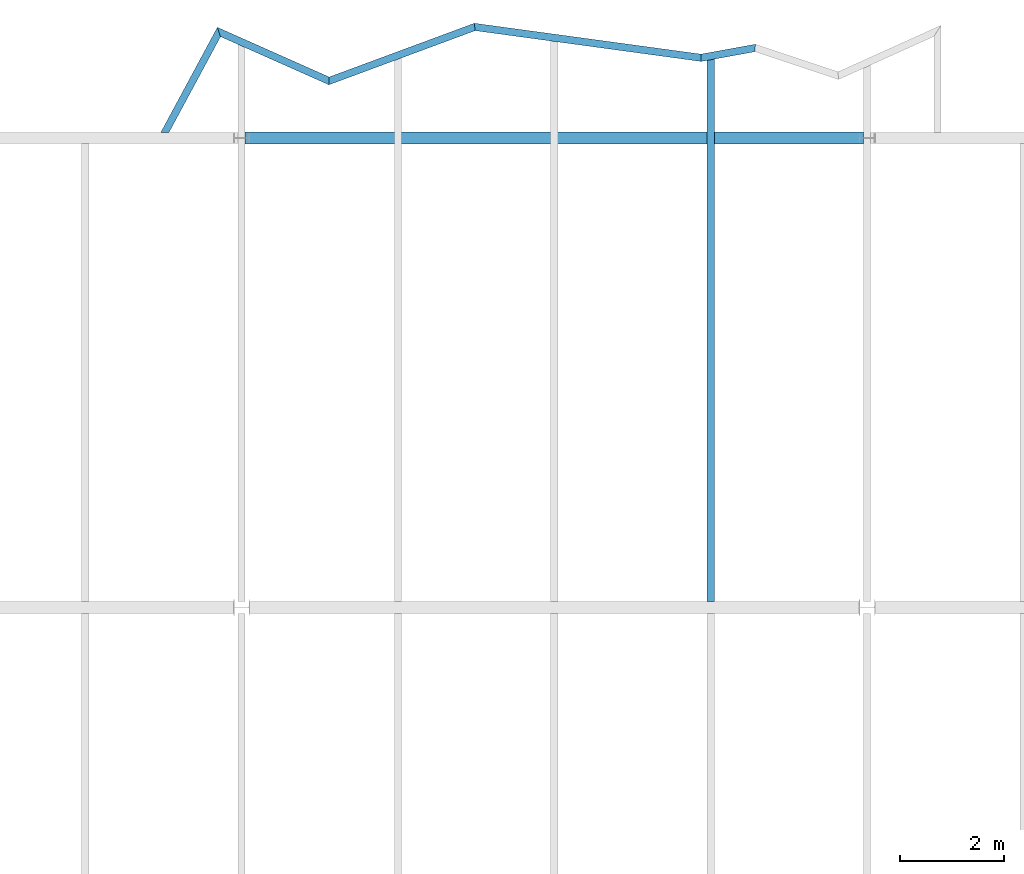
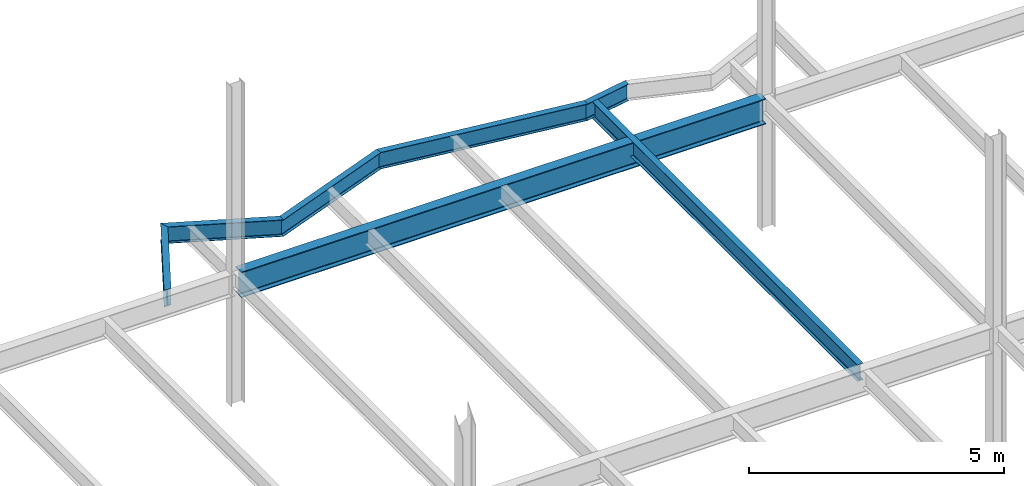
# One storey, part 10 of 23: 7 beams.
"""IFC2X3 building model written with IfcOpenShell, lengths in millimetres."""

from ifc_helpers import new_model, si_unit, origin, place, context, project, spatial, faceted_brep, material, element, save


model = new_model("IFC2X3")

# Units and contexts
context_of_model = context(None, 3, precision=1e-05, world=origin())
ifc_project = project(units=[si_unit("LENGTHUNIT", "METRE", prefix="MILLI")], contexts=[context_of_model])

# Building, storey
building = spatial("IfcBuilding", under=ifc_project, Name="Building", CompositionType="ELEMENT")
storey = spatial("IfcBuildingStorey", under=building, Name="FL5-FRM", CompositionType="ELEMENT")

# Beams
ifc_material_1 = material(Name="A992")
beam_1_placement = place(None, origin())
element("IfcBeam", 1, at=beam_1_placement, inside=storey, material=ifc_material_1, Name="Column405", context=context_of_model, shape_type="Brep", body=[
    faceted_brep([(-23930.0, 35885.5, 17261.0), (-23930.0, 36114.5, 17261.0), (-12070.0, 36114.5, 17261.0), (-12070.0, 35885.5, 17261.0), (-23930.0, 36114.5, 17280.6), (-12070.0, 36114.5, 17280.6), (-23930.0, 36018.6, 17280.6), (-12070.0, 36018.6, 17280.6), (-23930.0, 36015.4, 17281.0), (-12070.0, 36015.4, 17281.0), (-23930.0, 36012.3, 17282.3), (-12070.0, 36012.3, 17282.3), (-23930.0, 36009.7, 17284.3), (-12070.0, 36009.7, 17284.3), (-23930.0, 36007.7, 17287.0), (-12070.0, 36007.7, 17287.0), (-23930.0, 36006.4, 17290.0), (-12070.0, 36006.4, 17290.0), (-23930.0, 36005.9, 17293.3), (-12070.0, 36005.9, 17293.3), (-23930.0, 36005.9, 17840.7), (-12070.0, 36005.9, 17840.7), (-23930.0, 36006.4, 17844.0), (-12070.0, 36006.4, 17844.0), (-23930.0, 36007.7, 17847.0), (-12070.0, 36007.7, 17847.0), (-23930.0, 36009.7, 17849.7), (-12070.0, 36009.7, 17849.7), (-23930.0, 36012.3, 17851.7), (-12070.0, 36012.3, 17851.7), (-23930.0, 36015.4, 17853.0), (-12070.0, 36015.4, 17853.0), (-23930.0, 36018.6, 17853.4), (-12070.0, 36018.6, 17853.4), (-23930.0, 36114.5, 17853.4), (-12070.0, 36114.5, 17853.4), (-23930.0, 36114.5, 17873.0), (-12070.0, 36114.5, 17873.0), (-23930.0, 35885.5, 17873.0), (-12070.0, 35885.5, 17873.0), (-23930.0, 35885.5, 17853.4), (-12070.0, 35885.5, 17853.4), (-23930.0, 35981.4, 17853.4), (-12070.0, 35981.4, 17853.4), (-23930.0, 35984.6, 17853.0), (-12070.0, 35984.6, 17853.0), (-23930.0, 35987.7, 17851.7), (-12070.0, 35987.7, 17851.7), (-23930.0, 35990.3, 17849.7), (-12070.0, 35990.3, 17849.7), (-23930.0, 35992.3, 17847.0), (-12070.0, 35992.3, 17847.0), (-23930.0, 35993.6, 17844.0), (-12070.0, 35993.6, 17844.0), (-23930.0, 35994.1, 17840.7), (-12070.0, 35994.1, 17840.7), (-23930.0, 35994.1, 17293.3), (-12070.0, 35994.1, 17293.3), (-23930.0, 35993.6, 17290.0), (-12070.0, 35993.6, 17290.0), (-23930.0, 35992.3, 17287.0), (-12070.0, 35992.3, 17287.0), (-23930.0, 35990.3, 17284.3), (-12070.0, 35990.3, 17284.3), (-23930.0, 35987.7, 17282.3), (-12070.0, 35987.7, 17282.3), (-23930.0, 35984.6, 17281.0), (-12070.0, 35984.6, 17281.0), (-23930.0, 35981.4, 17280.6), (-12070.0, 35981.4, 17280.6), (-23930.0, 35885.5, 17280.6), (-12070.0, 35885.5, 17280.6)], [[[0, 1, 2, 3]], [[1, 4, 5, 2]], [[4, 6, 7, 5]], [[6, 8, 9, 7]], [[8, 10, 11, 9]], [[10, 12, 13, 11]], [[12, 14, 15, 13]], [[14, 16, 17, 15]], [[16, 18, 19, 17]], [[18, 20, 21, 19]], [[20, 22, 23, 21]], [[22, 24, 25, 23]], [[24, 26, 27, 25]], [[26, 28, 29, 27]], [[28, 30, 31, 29]], [[30, 32, 33, 31]], [[32, 34, 35, 33]], [[34, 36, 37, 35]], [[36, 38, 39, 37]], [[38, 40, 41, 39]], [[40, 42, 43, 41]], [[42, 44, 45, 43]], [[44, 46, 47, 45]], [[46, 48, 49, 47]], [[48, 50, 51, 49]], [[50, 52, 53, 51]], [[52, 54, 55, 53]], [[54, 56, 57, 55]], [[56, 58, 59, 57]], [[58, 60, 61, 59]], [[60, 62, 63, 61]], [[62, 64, 65, 63]], [[64, 66, 67, 65]], [[66, 68, 69, 67]], [[68, 70, 71, 69]], [[70, 0, 3, 71]], [[0, 70, 68, 66, 64, 62, 60, 58, 56, 54, 52, 50, 48, 46, 44, 42, 40, 38, 36, 34, 32, 30, 28, 26, 24, 22, 20, 18, 16, 14, 12, 10, 8, 6, 4, 1]], [[3, 2, 5, 7, 9, 11, 13, 15, 17, 19, 21, 23, 25, 27, 29, 31, 33, 35, 37, 39, 41, 43, 45, 47, 49, 51, 53, 55, 57, 59, 61, 63, 65, 67, 69, 71]]]),
])
ifc_material_2 = material(Name="A992")
beam_2_placement = place(None, origin())
element("IfcBeam", 2, at=beam_2_placement, inside=storey, material=ifc_material_2, Name="B263", context=context_of_model, shape_type="Brep", body=[
    faceted_brep([(-15070.0, 37491.8, 17474.0), (-14930.0, 37517.3, 17474.0), (-14930.0, 27114.5, 17474.0), (-15070.0, 27114.5, 17474.0), (-14930.0, 37517.3, 17482.8), (-14930.0, 27114.5, 17482.8), (-14986.6, 37507.0, 17482.8), (-14986.6, 27114.5, 17482.8), (-14988.1, 37506.7, 17482.9), (-14988.1, 27114.5, 17482.9), (-14989.5, 37506.5, 17483.2), (-14989.5, 27114.5, 17483.2), (-14990.8, 37506.2, 17483.7), (-14990.8, 27114.5, 17483.7), (-14992.1, 37506.0, 17484.4), (-14992.1, 27114.5, 17484.4), (-14993.3, 37505.8, 17485.3), (-14993.3, 27114.5, 17485.3), (-14994.3, 37505.6, 17486.3), (-14994.3, 27114.5, 17486.3), (-14995.2, 37505.4, 17487.5), (-14995.2, 27114.5, 17487.5), (-14995.9, 37505.3, 17488.8), (-14995.9, 27114.5, 17488.8), (-14996.4, 37505.2, 17490.1), (-14996.4, 27114.5, 17490.1), (-14996.7, 37505.2, 17491.5), (-14996.7, 27114.5, 17491.5), (-14996.8, 37505.1, 17493.0), (-14996.8, 27114.5, 17493.0), (-14996.8, 37505.1, 17854.0), (-14996.8, 27114.5, 17854.0), (-14996.7, 37505.2, 17855.5), (-14996.7, 27114.5, 17855.5), (-14996.4, 37505.2, 17856.9), (-14996.4, 27114.5, 17856.9), (-14995.9, 37505.3, 17858.2), (-14995.9, 27114.5, 17858.2), (-14995.2, 37505.4, 17859.5), (-14995.2, 27114.5, 17859.5), (-14994.3, 37505.6, 17860.7), (-14994.3, 27114.5, 17860.7), (-14993.3, 37505.8, 17861.7), (-14993.3, 27114.5, 17861.7), (-14992.1, 37506.0, 17862.6), (-14992.1, 27114.5, 17862.6), (-14990.8, 37506.2, 17863.3), (-14990.8, 27114.5, 17863.3), (-14989.5, 37506.5, 17863.8), (-14989.5, 27114.5, 17863.8), (-14988.1, 37506.7, 17864.1), (-14988.1, 27114.5, 17864.1), (-14986.6, 37507.0, 17864.2), (-14986.6, 27114.5, 17864.2), (-14930.0, 37517.3, 17864.2), (-14930.0, 27114.5, 17864.2), (-14930.0, 37517.3, 17873.0), (-14930.0, 27114.5, 17873.0), (-15070.0, 37491.8, 17873.0), (-15070.0, 27114.5, 17873.0), (-15070.0, 37491.8, 17864.2), (-15070.0, 27114.5, 17864.2), (-15013.4, 37502.1, 17864.2), (-15013.4, 27114.5, 17864.2), (-15011.9, 37502.4, 17864.1), (-15011.9, 27114.5, 17864.1), (-15010.5, 37502.6, 17863.8), (-15010.5, 27114.5, 17863.8), (-15009.2, 37502.9, 17863.3), (-15009.2, 27114.5, 17863.3), (-15007.9, 37503.1, 17862.6), (-15007.9, 27114.5, 17862.6), (-15006.7, 37503.3, 17861.7), (-15006.7, 27114.5, 17861.7), (-15005.7, 37503.5, 17860.7), (-15005.7, 27114.5, 17860.7), (-15004.8, 37503.7, 17859.5), (-15004.8, 27114.5, 17859.5), (-15004.1, 37503.8, 17858.2), (-15004.1, 27114.5, 17858.2), (-15003.6, 37503.9, 17856.9), (-15003.6, 27114.5, 17856.9), (-15003.3, 37504.0, 17855.5), (-15003.3, 27114.5, 17855.5), (-15003.2, 37504.0, 17854.0), (-15003.2, 27114.5, 17854.0), (-15003.2, 37504.0, 17493.0), (-15003.2, 27114.5, 17493.0), (-15003.3, 37504.0, 17491.5), (-15003.3, 27114.5, 17491.5), (-15003.6, 37503.9, 17490.1), (-15003.6, 27114.5, 17490.1), (-15004.1, 37503.8, 17488.8), (-15004.1, 27114.5, 17488.8), (-15004.8, 37503.7, 17487.5), (-15004.8, 27114.5, 17487.5), (-15005.7, 37503.5, 17486.3), (-15005.7, 27114.5, 17486.3), (-15006.7, 37503.3, 17485.3), (-15006.7, 27114.5, 17485.3), (-15007.9, 37503.1, 17484.4), (-15007.9, 27114.5, 17484.4), (-15009.2, 37502.9, 17483.7), (-15009.2, 27114.5, 17483.7), (-15010.5, 37502.6, 17483.2), (-15010.5, 27114.5, 17483.2), (-15011.9, 37502.4, 17482.9), (-15011.9, 27114.5, 17482.9), (-15013.4, 37502.1, 17482.8), (-15013.4, 27114.5, 17482.8), (-15070.0, 37491.8, 17482.8), (-15070.0, 27114.5, 17482.8)], [[[0, 1, 2, 3]], [[1, 4, 5, 2]], [[4, 6, 7, 5]], [[6, 8, 9, 7]], [[8, 10, 11, 9]], [[10, 12, 13, 11]], [[12, 14, 15, 13]], [[14, 16, 17, 15]], [[16, 18, 19, 17]], [[18, 20, 21, 19]], [[20, 22, 23, 21]], [[22, 24, 25, 23]], [[24, 26, 27, 25]], [[26, 28, 29, 27]], [[28, 30, 31, 29]], [[30, 32, 33, 31]], [[32, 34, 35, 33]], [[34, 36, 37, 35]], [[36, 38, 39, 37]], [[38, 40, 41, 39]], [[40, 42, 43, 41]], [[42, 44, 45, 43]], [[44, 46, 47, 45]], [[46, 48, 49, 47]], [[48, 50, 51, 49]], [[50, 52, 53, 51]], [[52, 54, 55, 53]], [[54, 56, 57, 55]], [[56, 58, 59, 57]], [[58, 60, 61, 59]], [[60, 62, 63, 61]], [[62, 64, 65, 63]], [[64, 66, 67, 65]], [[66, 68, 69, 67]], [[68, 70, 71, 69]], [[70, 72, 73, 71]], [[72, 74, 75, 73]], [[74, 76, 77, 75]], [[76, 78, 79, 77]], [[78, 80, 81, 79]], [[80, 82, 83, 81]], [[82, 84, 85, 83]], [[84, 86, 87, 85]], [[86, 88, 89, 87]], [[88, 90, 91, 89]], [[90, 92, 93, 91]], [[92, 94, 95, 93]], [[94, 96, 97, 95]], [[96, 98, 99, 97]], [[98, 100, 101, 99]], [[100, 102, 103, 101]], [[102, 104, 105, 103]], [[104, 106, 107, 105]], [[106, 108, 109, 107]], [[108, 110, 111, 109]], [[110, 0, 3, 111]], [[0, 110, 108, 106, 104, 102, 100, 98, 96, 94, 92, 90, 88, 86, 84, 82, 80, 78, 76, 74, 72, 70, 68, 66, 64, 62, 60, 58, 56, 54, 52, 50, 48, 46, 44, 42, 40, 38, 36, 34, 32, 30, 28, 26, 24, 22, 20, 18, 16, 14, 12, 10, 8, 6, 4, 1]], [[3, 2, 5, 7, 9, 11, 13, 15, 17, 19, 21, 23, 25, 27, 29, 31, 33, 35, 37, 39, 41, 43, 45, 47, 49, 51, 53, 55, 57, 59, 61, 63, 65, 67, 69, 71, 73, 75, 77, 79, 81, 83, 85, 87, 89, 91, 93, 95, 97, 99, 101, 103, 105, 107, 109, 111]]]),
])
ifc_material_3 = material(Name="A992")
beam_3_placement = place(None, origin())
element("IfcBeam", 3, at=beam_3_placement, inside=storey, material=ifc_material_3, Name="B971", context=context_of_model, shape_type="Brep", body=[
    faceted_brep([(-25395.2, 36104.5, 17474.0), (-25554.2, 36104.5, 17474.0), (-24464.9, 38127.5, 17474.0), (-24403.2, 37946.8, 17474.0), (-25554.2, 36104.5, 17482.8), (-24464.9, 38127.5, 17482.8), (-25489.9, 36104.5, 17482.8), (-24440.0, 38054.5, 17482.8), (-25488.1, 36104.5, 17482.9), (-24439.3, 38052.4, 17482.9), (-25486.4, 36104.5, 17483.3), (-24438.6, 38050.4, 17483.3), (-25484.7, 36104.5, 17483.9), (-24437.9, 38048.5, 17483.9), (-25483.1, 36104.5, 17484.7), (-24437.3, 38046.8, 17484.7), (-25481.7, 36104.5, 17485.8), (-24436.8, 38045.1, 17485.8), (-25480.6, 36104.5, 17487.0), (-24436.3, 38043.8, 17487.0), (-25479.6, 36104.5, 17488.4), (-24436.0, 38042.7, 17488.3), (-25478.9, 36104.5, 17489.8), (-24435.7, 38042.0, 17489.8), (-25478.5, 36104.5, 17491.4), (-24435.5, 38041.5, 17491.4), (-25478.4, 36104.5, 17493.0), (-24435.5, 38041.3, 17493.0), (-25478.4, 36104.5, 17854.0), (-24435.5, 38041.3, 17854.0), (-25478.5, 36104.5, 17855.6), (-24435.5, 38041.5, 17855.6), (-25478.9, 36104.5, 17857.2), (-24435.7, 38042.0, 17857.2), (-25479.6, 36104.5, 17858.6), (-24436.0, 38042.7, 17858.7), (-25480.6, 36104.5, 17860.0), (-24436.3, 38043.8, 17860.0), (-25481.7, 36104.5, 17861.2), (-24436.8, 38045.1, 17861.2), (-25483.1, 36104.5, 17862.3), (-24437.3, 38046.8, 17862.3), (-25484.7, 36104.5, 17863.1), (-24437.9, 38048.5, 17863.1), (-25486.4, 36104.5, 17863.7), (-24438.6, 38050.4, 17863.7), (-25488.1, 36104.5, 17864.1), (-24439.3, 38052.4, 17864.1), (-25489.9, 36104.5, 17864.2), (-24440.0, 38054.5, 17864.2), (-25554.2, 36104.5, 17864.2), (-24464.9, 38127.5, 17864.2), (-25554.2, 36104.5, 17873.0), (-24464.9, 38127.5, 17873.0), (-25395.2, 36104.5, 17873.0), (-24403.2, 37946.8, 17873.0), (-25395.2, 36104.5, 17864.2), (-24403.2, 37946.8, 17864.2), (-25459.5, 36104.5, 17864.2), (-24428.1, 38019.9, 17864.2), (-25461.3, 36104.5, 17864.1), (-24428.8, 38021.9, 17864.1), (-25463.1, 36104.5, 17863.7), (-24429.5, 38023.9, 17863.7), (-25464.7, 36104.5, 17863.1), (-24430.2, 38025.8, 17863.1), (-25466.3, 36104.5, 17862.3), (-24430.8, 38027.6, 17862.3), (-25467.7, 36104.5, 17861.2), (-24431.3, 38029.2, 17861.2), (-25468.9, 36104.5, 17860.0), (-24431.8, 38030.5, 17860.0), (-25469.8, 36104.5, 17858.6), (-24432.2, 38031.6, 17858.7), (-25470.5, 36104.5, 17857.2), (-24432.4, 38032.4, 17857.2), (-25470.9, 36104.5, 17855.6), (-24432.6, 38032.8, 17855.6), (-25471.1, 36104.5, 17854.0), (-24432.6, 38033.0, 17854.0), (-25471.1, 36104.5, 17493.0), (-24432.6, 38033.0, 17493.0), (-25470.9, 36104.5, 17491.4), (-24432.6, 38032.8, 17491.4), (-25470.5, 36104.5, 17489.8), (-24432.4, 38032.4, 17489.8), (-25469.8, 36104.5, 17488.4), (-24432.2, 38031.6, 17488.3), (-25468.9, 36104.5, 17487.0), (-24431.8, 38030.5, 17487.0), (-25467.7, 36104.5, 17485.8), (-24431.3, 38029.2, 17485.8), (-25466.3, 36104.5, 17484.7), (-24430.8, 38027.6, 17484.7), (-25464.7, 36104.5, 17483.9), (-24430.2, 38025.8, 17483.9), (-25463.1, 36104.5, 17483.3), (-24429.5, 38023.9, 17483.3), (-25461.3, 36104.5, 17482.9), (-24428.8, 38021.9, 17482.9), (-25459.5, 36104.5, 17482.8), (-24428.1, 38019.9, 17482.8), (-25395.2, 36104.5, 17482.8), (-24403.2, 37946.8, 17482.8)], [[[0, 1, 2, 3]], [[1, 4, 5, 2]], [[4, 6, 7, 5]], [[6, 8, 9, 7]], [[8, 10, 11, 9]], [[10, 12, 13, 11]], [[12, 14, 15, 13]], [[14, 16, 17, 15]], [[16, 18, 19, 17]], [[18, 20, 21, 19]], [[20, 22, 23, 21]], [[22, 24, 25, 23]], [[24, 26, 27, 25]], [[26, 28, 29, 27]], [[28, 30, 31, 29]], [[30, 32, 33, 31]], [[32, 34, 35, 33]], [[34, 36, 37, 35]], [[36, 38, 39, 37]], [[38, 40, 41, 39]], [[40, 42, 43, 41]], [[42, 44, 45, 43]], [[44, 46, 47, 45]], [[46, 48, 49, 47]], [[48, 50, 51, 49]], [[50, 52, 53, 51]], [[52, 54, 55, 53]], [[54, 56, 57, 55]], [[56, 58, 59, 57]], [[58, 60, 61, 59]], [[60, 62, 63, 61]], [[62, 64, 65, 63]], [[64, 66, 67, 65]], [[66, 68, 69, 67]], [[68, 70, 71, 69]], [[70, 72, 73, 71]], [[72, 74, 75, 73]], [[74, 76, 77, 75]], [[76, 78, 79, 77]], [[78, 80, 81, 79]], [[80, 82, 83, 81]], [[82, 84, 85, 83]], [[84, 86, 87, 85]], [[86, 88, 89, 87]], [[88, 90, 91, 89]], [[90, 92, 93, 91]], [[92, 94, 95, 93]], [[94, 96, 97, 95]], [[96, 98, 99, 97]], [[98, 100, 101, 99]], [[100, 102, 103, 101]], [[102, 0, 3, 103]], [[0, 102, 100, 98, 96, 94, 92, 90, 88, 86, 84, 82, 80, 78, 76, 74, 72, 70, 68, 66, 64, 62, 60, 58, 56, 54, 52, 50, 48, 46, 44, 42, 40, 38, 36, 34, 32, 30, 28, 26, 24, 22, 20, 18, 16, 14, 12, 10, 8, 6, 4, 1]], [[3, 2, 5, 7, 9, 11, 13, 15, 17, 19, 21, 23, 25, 27, 29, 31, 33, 35, 37, 39, 41, 43, 45, 47, 49, 51, 53, 55, 57, 59, 61, 63, 65, 67, 69, 71, 73, 75, 77, 79, 81, 83, 85, 87, 89, 91, 93, 95, 97, 99, 101, 103]]]),
])
ifc_material_4 = material(Name="A992")
beam_4_placement = place(None, origin())
element("IfcBeam", 4, at=beam_4_placement, inside=storey, material=ifc_material_4, Name="B972", context=context_of_model, shape_type="Brep", body=[
    faceted_brep([(-24403.2, 37946.8, 17474.0), (-24464.9, 38127.5, 17474.0), (-22319.9, 37174.1, 17474.0), (-22324.7, 37023.1, 17474.0), (-24464.9, 38127.5, 17482.8), (-22319.9, 37174.1, 17482.8), (-24440.0, 38054.5, 17482.8), (-22321.8, 37113.1, 17482.8), (-24439.3, 38052.4, 17482.9), (-22321.9, 37111.3, 17482.9), (-24438.6, 38050.4, 17483.3), (-22321.9, 37109.7, 17483.3), (-24437.9, 38048.5, 17483.9), (-22322.0, 37108.1, 17483.9), (-24437.3, 38046.8, 17484.7), (-22322.0, 37106.6, 17484.7), (-24436.8, 38045.1, 17485.8), (-22322.1, 37105.3, 17485.8), (-24436.3, 38043.8, 17487.0), (-22322.1, 37104.2, 17487.0), (-24436.0, 38042.7, 17488.3), (-22322.1, 37103.3, 17488.4), (-24435.7, 38042.0, 17489.8), (-22322.2, 37102.6, 17489.8), (-24435.5, 38041.5, 17491.4), (-22322.2, 37102.2, 17491.4), (-24435.5, 38041.3, 17493.0), (-22322.2, 37102.1, 17493.0), (-24435.5, 38041.3, 17854.0), (-22322.2, 37102.1, 17854.0), (-24435.5, 38041.5, 17855.6), (-22322.2, 37102.2, 17855.6), (-24435.7, 38042.0, 17857.2), (-22322.2, 37102.6, 17857.2), (-24436.0, 38042.7, 17858.7), (-22322.1, 37103.3, 17858.6), (-24436.3, 38043.8, 17860.0), (-22322.1, 37104.2, 17860.0), (-24436.8, 38045.1, 17861.2), (-22322.1, 37105.3, 17861.2), (-24437.3, 38046.8, 17862.3), (-22322.0, 37106.6, 17862.3), (-24437.9, 38048.5, 17863.1), (-22322.0, 37108.1, 17863.1), (-24438.6, 38050.4, 17863.7), (-22321.9, 37109.7, 17863.7), (-24439.3, 38052.4, 17864.1), (-22321.9, 37111.3, 17864.1), (-24440.0, 38054.5, 17864.2), (-22321.8, 37113.1, 17864.2), (-24464.9, 38127.5, 17864.2), (-22319.9, 37174.1, 17864.2), (-24464.9, 38127.5, 17873.0), (-22319.9, 37174.1, 17873.0), (-24403.2, 37946.8, 17873.0), (-22324.7, 37023.1, 17873.0), (-24403.2, 37946.8, 17864.2), (-22324.7, 37023.1, 17864.2), (-24428.1, 38019.9, 17864.2), (-22322.7, 37084.1, 17864.2), (-24428.8, 38021.9, 17864.1), (-22322.7, 37085.9, 17864.1), (-24429.5, 38023.9, 17863.7), (-22322.6, 37087.5, 17863.7), (-24430.2, 38025.8, 17863.1), (-22322.6, 37089.1, 17863.1), (-24430.8, 38027.6, 17862.3), (-22322.5, 37090.6, 17862.3), (-24431.3, 38029.2, 17861.2), (-22322.5, 37091.9, 17861.2), (-24431.8, 38030.5, 17860.0), (-22322.5, 37093.0, 17860.0), (-24432.2, 38031.6, 17858.7), (-22322.4, 37093.9, 17858.6), (-24432.4, 38032.4, 17857.2), (-22322.4, 37094.6, 17857.2), (-24432.6, 38032.8, 17855.6), (-22322.4, 37095.0, 17855.6), (-24432.6, 38033.0, 17854.0), (-22322.4, 37095.1, 17854.0), (-24432.6, 38033.0, 17493.0), (-22322.4, 37095.1, 17493.0), (-24432.6, 38032.8, 17491.4), (-22322.4, 37095.0, 17491.4), (-24432.4, 38032.4, 17489.8), (-22322.4, 37094.6, 17489.8), (-24432.2, 38031.6, 17488.3), (-22322.4, 37093.9, 17488.4), (-24431.8, 38030.5, 17487.0), (-22322.5, 37093.0, 17487.0), (-24431.3, 38029.2, 17485.8), (-22322.5, 37091.9, 17485.8), (-24430.8, 38027.6, 17484.7), (-22322.5, 37090.6, 17484.7), (-24430.2, 38025.8, 17483.9), (-22322.6, 37089.1, 17483.9), (-24429.5, 38023.9, 17483.3), (-22322.6, 37087.5, 17483.3), (-24428.8, 38021.9, 17482.9), (-22322.7, 37085.9, 17482.9), (-24428.1, 38019.9, 17482.8), (-22322.7, 37084.1, 17482.8), (-24403.2, 37946.8, 17482.8), (-22324.7, 37023.1, 17482.8)], [[[0, 1, 2, 3]], [[1, 4, 5, 2]], [[4, 6, 7, 5]], [[6, 8, 9, 7]], [[8, 10, 11, 9]], [[10, 12, 13, 11]], [[12, 14, 15, 13]], [[14, 16, 17, 15]], [[16, 18, 19, 17]], [[18, 20, 21, 19]], [[20, 22, 23, 21]], [[22, 24, 25, 23]], [[24, 26, 27, 25]], [[26, 28, 29, 27]], [[28, 30, 31, 29]], [[30, 32, 33, 31]], [[32, 34, 35, 33]], [[34, 36, 37, 35]], [[36, 38, 39, 37]], [[38, 40, 41, 39]], [[40, 42, 43, 41]], [[42, 44, 45, 43]], [[44, 46, 47, 45]], [[46, 48, 49, 47]], [[48, 50, 51, 49]], [[50, 52, 53, 51]], [[52, 54, 55, 53]], [[54, 56, 57, 55]], [[56, 58, 59, 57]], [[58, 60, 61, 59]], [[60, 62, 63, 61]], [[62, 64, 65, 63]], [[64, 66, 67, 65]], [[66, 68, 69, 67]], [[68, 70, 71, 69]], [[70, 72, 73, 71]], [[72, 74, 75, 73]], [[74, 76, 77, 75]], [[76, 78, 79, 77]], [[78, 80, 81, 79]], [[80, 82, 83, 81]], [[82, 84, 85, 83]], [[84, 86, 87, 85]], [[86, 88, 89, 87]], [[88, 90, 91, 89]], [[90, 92, 93, 91]], [[92, 94, 95, 93]], [[94, 96, 97, 95]], [[96, 98, 99, 97]], [[98, 100, 101, 99]], [[100, 102, 103, 101]], [[102, 0, 3, 103]], [[0, 102, 100, 98, 96, 94, 92, 90, 88, 86, 84, 82, 80, 78, 76, 74, 72, 70, 68, 66, 64, 62, 60, 58, 56, 54, 52, 50, 48, 46, 44, 42, 40, 38, 36, 34, 32, 30, 28, 26, 24, 22, 20, 18, 16, 14, 12, 10, 8, 6, 4, 1]], [[3, 2, 5, 7, 9, 11, 13, 15, 17, 19, 21, 23, 25, 27, 29, 31, 33, 35, 37, 39, 41, 43, 45, 47, 49, 51, 53, 55, 57, 59, 61, 63, 65, 67, 69, 71, 73, 75, 77, 79, 81, 83, 85, 87, 89, 91, 93, 95, 97, 99, 101, 103]]]),
])
ifc_material_5 = material(Name="A992")
beam_5_placement = place(None, origin())
element("IfcBeam", 5, at=beam_5_placement, inside=storey, material=ifc_material_5, Name="B973", context=context_of_model, shape_type="Brep", body=[
    faceted_brep([(-22324.7, 37023.1, 17474.0), (-22319.9, 37174.1, 17474.0), (-19534.6, 38205.7, 17474.0), (-19518.8, 38062.3, 17474.0), (-22319.9, 37174.1, 17482.8), (-19534.6, 38205.7, 17482.8), (-22321.8, 37113.1, 17482.8), (-19528.2, 38147.7, 17482.8), (-22321.9, 37111.5, 17482.9), (-19528.1, 38146.2, 17482.9), (-22321.9, 37110.0, 17483.2), (-19527.9, 38144.8, 17483.2), (-22322.0, 37108.5, 17483.7), (-19527.8, 38143.4, 17483.7), (-22322.0, 37107.1, 17484.4), (-19527.6, 38142.1, 17484.4), (-22322.1, 37105.9, 17485.3), (-19527.5, 38140.9, 17485.3), (-22322.1, 37104.7, 17486.3), (-19527.4, 38139.8, 17486.3), (-22322.1, 37103.8, 17487.5), (-19527.3, 38138.9, 17487.5), (-22322.1, 37103.0, 17488.8), (-19527.2, 38138.2, 17488.8), (-22322.2, 37102.5, 17490.1), (-19527.1, 38137.7, 17490.1), (-22322.2, 37102.2, 17491.5), (-19527.1, 38137.4, 17491.5), (-22322.2, 37102.1, 17493.0), (-19527.1, 38137.3, 17493.0), (-22322.2, 37102.1, 17854.0), (-19527.1, 38137.3, 17854.0), (-22322.2, 37102.2, 17855.5), (-19527.1, 38137.4, 17855.5), (-22322.2, 37102.5, 17856.9), (-19527.1, 38137.7, 17856.9), (-22322.1, 37103.0, 17858.2), (-19527.2, 38138.2, 17858.2), (-22322.1, 37103.8, 17859.5), (-19527.3, 38138.9, 17859.5), (-22322.1, 37104.7, 17860.7), (-19527.4, 38139.8, 17860.7), (-22322.1, 37105.9, 17861.7), (-19527.5, 38140.9, 17861.7), (-22322.0, 37107.1, 17862.6), (-19527.6, 38142.1, 17862.6), (-22322.0, 37108.5, 17863.3), (-19527.8, 38143.4, 17863.3), (-22321.9, 37110.0, 17863.8), (-19527.9, 38144.8, 17863.8), (-22321.9, 37111.5, 17864.1), (-19528.1, 38146.2, 17864.1), (-22321.8, 37113.1, 17864.2), (-19528.2, 38147.7, 17864.2), (-22319.9, 37174.1, 17864.2), (-19534.6, 38205.7, 17864.2), (-22319.9, 37174.1, 17873.0), (-19534.6, 38205.7, 17873.0), (-22324.7, 37023.1, 17873.0), (-19518.8, 38062.3, 17873.0), (-22324.7, 37023.1, 17864.2), (-19518.8, 38062.3, 17864.2), (-22322.7, 37084.1, 17864.2), (-19525.2, 38120.3, 17864.2), (-22322.7, 37085.7, 17864.1), (-19525.4, 38121.7, 17864.1), (-22322.6, 37087.2, 17863.8), (-19525.5, 38123.2, 17863.8), (-22322.6, 37088.7, 17863.3), (-19525.7, 38124.6, 17863.3), (-22322.6, 37090.1, 17862.6), (-19525.8, 38125.9, 17862.6), (-22322.5, 37091.3, 17861.7), (-19526.0, 38127.1, 17861.7), (-22322.5, 37092.4, 17860.7), (-19526.1, 38128.2, 17860.7), (-22322.4, 37093.4, 17859.5), (-19526.2, 38129.1, 17859.5), (-22322.4, 37094.1, 17858.2), (-19526.3, 38129.8, 17858.2), (-22322.4, 37094.7, 17856.9), (-19526.3, 38130.3, 17856.9), (-22322.4, 37095.0, 17855.5), (-19526.3, 38130.6, 17855.5), (-22322.4, 37095.1, 17854.0), (-19526.4, 38130.7, 17854.0), (-22322.4, 37095.1, 17493.0), (-19526.4, 38130.7, 17493.0), (-22322.4, 37095.0, 17491.5), (-19526.3, 38130.6, 17491.5), (-22322.4, 37094.7, 17490.1), (-19526.3, 38130.3, 17490.1), (-22322.4, 37094.1, 17488.8), (-19526.3, 38129.8, 17488.8), (-22322.4, 37093.4, 17487.5), (-19526.2, 38129.1, 17487.5), (-22322.5, 37092.4, 17486.3), (-19526.1, 38128.2, 17486.3), (-22322.5, 37091.3, 17485.3), (-19526.0, 38127.1, 17485.3), (-22322.6, 37090.1, 17484.4), (-19525.8, 38125.9, 17484.4), (-22322.6, 37088.7, 17483.7), (-19525.7, 38124.6, 17483.7), (-22322.6, 37087.2, 17483.2), (-19525.5, 38123.2, 17483.2), (-22322.7, 37085.7, 17482.9), (-19525.4, 38121.7, 17482.9), (-22322.7, 37084.1, 17482.8), (-19525.2, 38120.3, 17482.8), (-22324.7, 37023.1, 17482.8), (-19518.8, 38062.3, 17482.8)], [[[0, 1, 2, 3]], [[1, 4, 5, 2]], [[4, 6, 7, 5]], [[6, 8, 9, 7]], [[8, 10, 11, 9]], [[10, 12, 13, 11]], [[12, 14, 15, 13]], [[14, 16, 17, 15]], [[16, 18, 19, 17]], [[18, 20, 21, 19]], [[20, 22, 23, 21]], [[22, 24, 25, 23]], [[24, 26, 27, 25]], [[26, 28, 29, 27]], [[28, 30, 31, 29]], [[30, 32, 33, 31]], [[32, 34, 35, 33]], [[34, 36, 37, 35]], [[36, 38, 39, 37]], [[38, 40, 41, 39]], [[40, 42, 43, 41]], [[42, 44, 45, 43]], [[44, 46, 47, 45]], [[46, 48, 49, 47]], [[48, 50, 51, 49]], [[50, 52, 53, 51]], [[52, 54, 55, 53]], [[54, 56, 57, 55]], [[56, 58, 59, 57]], [[58, 60, 61, 59]], [[60, 62, 63, 61]], [[62, 64, 65, 63]], [[64, 66, 67, 65]], [[66, 68, 69, 67]], [[68, 70, 71, 69]], [[70, 72, 73, 71]], [[72, 74, 75, 73]], [[74, 76, 77, 75]], [[76, 78, 79, 77]], [[78, 80, 81, 79]], [[80, 82, 83, 81]], [[82, 84, 85, 83]], [[84, 86, 87, 85]], [[86, 88, 89, 87]], [[88, 90, 91, 89]], [[90, 92, 93, 91]], [[92, 94, 95, 93]], [[94, 96, 97, 95]], [[96, 98, 99, 97]], [[98, 100, 101, 99]], [[100, 102, 103, 101]], [[102, 104, 105, 103]], [[104, 106, 107, 105]], [[106, 108, 109, 107]], [[108, 110, 111, 109]], [[110, 0, 3, 111]], [[0, 110, 108, 106, 104, 102, 100, 98, 96, 94, 92, 90, 88, 86, 84, 82, 80, 78, 76, 74, 72, 70, 68, 66, 64, 62, 60, 58, 56, 54, 52, 50, 48, 46, 44, 42, 40, 38, 36, 34, 32, 30, 28, 26, 24, 22, 20, 18, 16, 14, 12, 10, 8, 6, 4, 1]], [[3, 2, 5, 7, 9, 11, 13, 15, 17, 19, 21, 23, 25, 27, 29, 31, 33, 35, 37, 39, 41, 43, 45, 47, 49, 51, 53, 55, 57, 59, 61, 63, 65, 67, 69, 71, 73, 75, 77, 79, 81, 83, 85, 87, 89, 91, 93, 95, 97, 99, 101, 103, 105, 107, 109, 111]]]),
])
ifc_material_6 = material(Name="A992")
beam_6_placement = place(None, origin())
element("IfcBeam", 6, at=beam_6_placement, inside=storey, material=ifc_material_6, Name="B974", context=context_of_model, shape_type="Brep", body=[
    faceted_brep([(-15187.0, 37612.9, 17474.0), (-15183.8, 37471.1, 17474.0), (-19518.8, 38062.3, 17474.0), (-19534.6, 38205.7, 17474.0), (-15183.8, 37471.1, 17482.8), (-19518.8, 38062.3, 17482.8), (-15185.1, 37528.4, 17482.8), (-19525.2, 38120.3, 17482.8), (-15185.1, 37529.9, 17482.9), (-19525.4, 38121.7, 17482.9), (-15185.2, 37531.3, 17483.2), (-19525.5, 38123.2, 17483.2), (-15185.2, 37532.7, 17483.7), (-19525.7, 38124.6, 17483.7), (-15185.2, 37534.0, 17484.4), (-19525.8, 38125.9, 17484.4), (-15185.3, 37535.2, 17485.3), (-19526.0, 38127.1, 17485.3), (-15185.3, 37536.2, 17486.3), (-19526.1, 38128.2, 17486.3), (-15185.3, 37537.1, 17487.5), (-19526.2, 38129.1, 17487.5), (-15185.3, 37537.8, 17488.8), (-19526.3, 38129.8, 17488.8), (-15185.3, 37538.3, 17490.1), (-19526.3, 38130.3, 17490.1), (-15185.3, 37538.6, 17491.5), (-19526.3, 38130.6, 17491.5), (-15185.3, 37538.8, 17493.0), (-19526.4, 38130.7, 17493.0), (-15185.3, 37538.8, 17854.0), (-19526.4, 38130.7, 17854.0), (-15185.3, 37538.6, 17855.5), (-19526.3, 38130.6, 17855.5), (-15185.3, 37538.3, 17856.9), (-19526.3, 38130.3, 17856.9), (-15185.3, 37537.8, 17858.2), (-19526.3, 38129.8, 17858.2), (-15185.3, 37537.1, 17859.5), (-19526.2, 38129.1, 17859.5), (-15185.3, 37536.2, 17860.7), (-19526.1, 38128.2, 17860.7), (-15185.3, 37535.2, 17861.7), (-19526.0, 38127.1, 17861.7), (-15185.2, 37534.0, 17862.6), (-19525.8, 38125.9, 17862.6), (-15185.2, 37532.7, 17863.3), (-19525.7, 38124.6, 17863.3), (-15185.2, 37531.3, 17863.8), (-19525.5, 38123.2, 17863.8), (-15185.1, 37529.9, 17864.1), (-19525.4, 38121.7, 17864.1), (-15185.1, 37528.4, 17864.2), (-19525.2, 38120.3, 17864.2), (-15183.8, 37471.1, 17864.2), (-19518.8, 38062.3, 17864.2), (-15183.8, 37471.1, 17873.0), (-19518.8, 38062.3, 17873.0), (-15187.0, 37612.9, 17873.0), (-19534.6, 38205.7, 17873.0), (-15187.0, 37612.9, 17864.2), (-19534.6, 38205.7, 17864.2), (-15185.7, 37555.6, 17864.2), (-19528.2, 38147.7, 17864.2), (-15185.7, 37554.1, 17864.1), (-19528.1, 38146.2, 17864.1), (-15185.7, 37552.7, 17863.8), (-19527.9, 38144.8, 17863.8), (-15185.6, 37551.3, 17863.3), (-19527.8, 38143.4, 17863.3), (-15185.6, 37550.0, 17862.6), (-19527.6, 38142.1, 17862.6), (-15185.6, 37548.8, 17861.7), (-19527.5, 38140.9, 17861.7), (-15185.5, 37547.8, 17860.7), (-19527.4, 38139.8, 17860.7), (-15185.5, 37546.9, 17859.5), (-19527.3, 38138.9, 17859.5), (-15185.5, 37546.2, 17858.2), (-19527.2, 38138.2, 17858.2), (-15185.5, 37545.7, 17856.9), (-19527.1, 38137.7, 17856.9), (-15185.5, 37545.3, 17855.5), (-19527.1, 38137.4, 17855.5), (-15185.5, 37545.2, 17854.0), (-19527.1, 38137.3, 17854.0), (-15185.5, 37545.2, 17493.0), (-19527.1, 38137.3, 17493.0), (-15185.5, 37545.3, 17491.5), (-19527.1, 38137.4, 17491.5), (-15185.5, 37545.7, 17490.1), (-19527.1, 38137.7, 17490.1), (-15185.5, 37546.2, 17488.8), (-19527.2, 38138.2, 17488.8), (-15185.5, 37546.9, 17487.5), (-19527.3, 38138.9, 17487.5), (-15185.5, 37547.8, 17486.3), (-19527.4, 38139.8, 17486.3), (-15185.6, 37548.8, 17485.3), (-19527.5, 38140.9, 17485.3), (-15185.6, 37550.0, 17484.4), (-19527.6, 38142.1, 17484.4), (-15185.6, 37551.3, 17483.7), (-19527.8, 38143.4, 17483.7), (-15185.7, 37552.7, 17483.2), (-19527.9, 38144.8, 17483.2), (-15185.7, 37554.1, 17482.9), (-19528.1, 38146.2, 17482.9), (-15185.7, 37555.6, 17482.8), (-19528.2, 38147.7, 17482.8), (-15187.0, 37612.9, 17482.8), (-19534.6, 38205.7, 17482.8)], [[[0, 1, 2, 3]], [[1, 4, 5, 2]], [[4, 6, 7, 5]], [[6, 8, 9, 7]], [[8, 10, 11, 9]], [[10, 12, 13, 11]], [[12, 14, 15, 13]], [[14, 16, 17, 15]], [[16, 18, 19, 17]], [[18, 20, 21, 19]], [[20, 22, 23, 21]], [[22, 24, 25, 23]], [[24, 26, 27, 25]], [[26, 28, 29, 27]], [[28, 30, 31, 29]], [[30, 32, 33, 31]], [[32, 34, 35, 33]], [[34, 36, 37, 35]], [[36, 38, 39, 37]], [[38, 40, 41, 39]], [[40, 42, 43, 41]], [[42, 44, 45, 43]], [[44, 46, 47, 45]], [[46, 48, 49, 47]], [[48, 50, 51, 49]], [[50, 52, 53, 51]], [[52, 54, 55, 53]], [[54, 56, 57, 55]], [[56, 58, 59, 57]], [[58, 60, 61, 59]], [[60, 62, 63, 61]], [[62, 64, 65, 63]], [[64, 66, 67, 65]], [[66, 68, 69, 67]], [[68, 70, 71, 69]], [[70, 72, 73, 71]], [[72, 74, 75, 73]], [[74, 76, 77, 75]], [[76, 78, 79, 77]], [[78, 80, 81, 79]], [[80, 82, 83, 81]], [[82, 84, 85, 83]], [[84, 86, 87, 85]], [[86, 88, 89, 87]], [[88, 90, 91, 89]], [[90, 92, 93, 91]], [[92, 94, 95, 93]], [[94, 96, 97, 95]], [[96, 98, 99, 97]], [[98, 100, 101, 99]], [[100, 102, 103, 101]], [[102, 104, 105, 103]], [[104, 106, 107, 105]], [[106, 108, 109, 107]], [[108, 110, 111, 109]], [[110, 0, 3, 111]], [[0, 110, 108, 106, 104, 102, 100, 98, 96, 94, 92, 90, 88, 86, 84, 82, 80, 78, 76, 74, 72, 70, 68, 66, 64, 62, 60, 58, 56, 54, 52, 50, 48, 46, 44, 42, 40, 38, 36, 34, 32, 30, 28, 26, 24, 22, 20, 18, 16, 14, 12, 10, 8, 6, 4, 1]], [[3, 2, 5, 7, 9, 11, 13, 15, 17, 19, 21, 23, 25, 27, 29, 31, 33, 35, 37, 39, 41, 43, 45, 47, 49, 51, 53, 55, 57, 59, 61, 63, 65, 67, 69, 71, 73, 75, 77, 79, 81, 83, 85, 87, 89, 91, 93, 95, 97, 99, 101, 103, 105, 107, 109, 111]]]),
])
ifc_material_7 = material(Name="A992")
beam_7_placement = place(None, origin())
element("IfcBeam", 7, at=beam_7_placement, inside=storey, material=ifc_material_7, Name="B975", context=context_of_model, shape_type="Brep", body=[
    faceted_brep([(-15183.8, 37471.1, 17474.0), (-15187.0, 37612.9, 17474.0), (-14142.4, 37802.8, 17474.0), (-14152.7, 37658.6, 17474.0), (-15187.0, 37612.9, 17482.8), (-14142.4, 37802.8, 17482.8), (-15185.7, 37555.6, 17482.8), (-14146.6, 37744.5, 17482.8), (-15185.7, 37554.1, 17482.9), (-14146.7, 37743.0, 17482.9), (-15185.7, 37552.7, 17483.2), (-14146.8, 37741.5, 17483.2), (-15185.6, 37551.3, 17483.7), (-14146.9, 37740.1, 17483.7), (-15185.6, 37550.0, 17484.4), (-14147.0, 37738.8, 17484.4), (-15185.6, 37548.8, 17485.3), (-14147.1, 37737.6, 17485.3), (-15185.5, 37547.8, 17486.3), (-14147.1, 37736.6, 17486.3), (-15185.5, 37546.9, 17487.5), (-14147.2, 37735.7, 17487.5), (-15185.5, 37546.2, 17488.8), (-14147.3, 37734.9, 17488.8), (-15185.5, 37545.7, 17490.1), (-14147.3, 37734.4, 17490.1), (-15185.5, 37545.3, 17491.5), (-14147.3, 37734.1, 17491.5), (-15185.5, 37545.2, 17493.0), (-14147.3, 37734.0, 17493.0), (-15185.5, 37545.2, 17854.0), (-14147.3, 37734.0, 17854.0), (-15185.5, 37545.3, 17855.5), (-14147.3, 37734.1, 17855.5), (-15185.5, 37545.7, 17856.9), (-14147.3, 37734.4, 17856.9), (-15185.5, 37546.2, 17858.2), (-14147.3, 37734.9, 17858.2), (-15185.5, 37546.9, 17859.5), (-14147.2, 37735.7, 17859.5), (-15185.5, 37547.8, 17860.7), (-14147.1, 37736.6, 17860.7), (-15185.6, 37548.8, 17861.7), (-14147.1, 37737.6, 17861.7), (-15185.6, 37550.0, 17862.6), (-14147.0, 37738.8, 17862.6), (-15185.6, 37551.3, 17863.3), (-14146.9, 37740.1, 17863.3), (-15185.7, 37552.7, 17863.8), (-14146.8, 37741.5, 17863.8), (-15185.7, 37554.1, 17864.1), (-14146.7, 37743.0, 17864.1), (-15185.7, 37555.6, 17864.2), (-14146.6, 37744.5, 17864.2), (-15187.0, 37612.9, 17864.2), (-14142.4, 37802.8, 17864.2), (-15187.0, 37612.9, 17873.0), (-14142.4, 37802.8, 17873.0), (-15183.8, 37471.1, 17873.0), (-14152.7, 37658.6, 17873.0), (-15183.8, 37471.1, 17864.2), (-14152.7, 37658.6, 17864.2), (-15185.1, 37528.4, 17864.2), (-14148.5, 37716.9, 17864.2), (-15185.1, 37529.9, 17864.1), (-14148.4, 37718.4, 17864.1), (-15185.2, 37531.3, 17863.8), (-14148.3, 37719.9, 17863.8), (-15185.2, 37532.7, 17863.3), (-14148.2, 37721.3, 17863.3), (-15185.2, 37534.0, 17862.6), (-14148.1, 37722.6, 17862.6), (-15185.3, 37535.2, 17861.7), (-14148.1, 37723.8, 17861.7), (-15185.3, 37536.2, 17860.7), (-14148.0, 37724.8, 17860.7), (-15185.3, 37537.1, 17859.5), (-14147.9, 37725.7, 17859.5), (-15185.3, 37537.8, 17858.2), (-14147.9, 37726.5, 17858.2), (-15185.3, 37538.3, 17856.9), (-14147.8, 37727.0, 17856.9), (-15185.3, 37538.6, 17855.5), (-14147.8, 37727.3, 17855.5), (-15185.3, 37538.8, 17854.0), (-14147.8, 37727.4, 17854.0), (-15185.3, 37538.8, 17493.0), (-14147.8, 37727.4, 17493.0), (-15185.3, 37538.6, 17491.5), (-14147.8, 37727.3, 17491.5), (-15185.3, 37538.3, 17490.1), (-14147.8, 37727.0, 17490.1), (-15185.3, 37537.8, 17488.8), (-14147.9, 37726.5, 17488.8), (-15185.3, 37537.1, 17487.5), (-14147.9, 37725.7, 17487.5), (-15185.3, 37536.2, 17486.3), (-14148.0, 37724.8, 17486.3), (-15185.3, 37535.2, 17485.3), (-14148.1, 37723.8, 17485.3), (-15185.2, 37534.0, 17484.4), (-14148.1, 37722.6, 17484.4), (-15185.2, 37532.7, 17483.7), (-14148.2, 37721.3, 17483.7), (-15185.2, 37531.3, 17483.2), (-14148.3, 37719.9, 17483.2), (-15185.1, 37529.9, 17482.9), (-14148.4, 37718.4, 17482.9), (-15185.1, 37528.4, 17482.8), (-14148.5, 37716.9, 17482.8), (-15183.8, 37471.1, 17482.8), (-14152.7, 37658.6, 17482.8)], [[[0, 1, 2, 3]], [[1, 4, 5, 2]], [[4, 6, 7, 5]], [[6, 8, 9, 7]], [[8, 10, 11, 9]], [[10, 12, 13, 11]], [[12, 14, 15, 13]], [[14, 16, 17, 15]], [[16, 18, 19, 17]], [[18, 20, 21, 19]], [[20, 22, 23, 21]], [[22, 24, 25, 23]], [[24, 26, 27, 25]], [[26, 28, 29, 27]], [[28, 30, 31, 29]], [[30, 32, 33, 31]], [[32, 34, 35, 33]], [[34, 36, 37, 35]], [[36, 38, 39, 37]], [[38, 40, 41, 39]], [[40, 42, 43, 41]], [[42, 44, 45, 43]], [[44, 46, 47, 45]], [[46, 48, 49, 47]], [[48, 50, 51, 49]], [[50, 52, 53, 51]], [[52, 54, 55, 53]], [[54, 56, 57, 55]], [[56, 58, 59, 57]], [[58, 60, 61, 59]], [[60, 62, 63, 61]], [[62, 64, 65, 63]], [[64, 66, 67, 65]], [[66, 68, 69, 67]], [[68, 70, 71, 69]], [[70, 72, 73, 71]], [[72, 74, 75, 73]], [[74, 76, 77, 75]], [[76, 78, 79, 77]], [[78, 80, 81, 79]], [[80, 82, 83, 81]], [[82, 84, 85, 83]], [[84, 86, 87, 85]], [[86, 88, 89, 87]], [[88, 90, 91, 89]], [[90, 92, 93, 91]], [[92, 94, 95, 93]], [[94, 96, 97, 95]], [[96, 98, 99, 97]], [[98, 100, 101, 99]], [[100, 102, 103, 101]], [[102, 104, 105, 103]], [[104, 106, 107, 105]], [[106, 108, 109, 107]], [[108, 110, 111, 109]], [[110, 0, 3, 111]], [[0, 110, 108, 106, 104, 102, 100, 98, 96, 94, 92, 90, 88, 86, 84, 82, 80, 78, 76, 74, 72, 70, 68, 66, 64, 62, 60, 58, 56, 54, 52, 50, 48, 46, 44, 42, 40, 38, 36, 34, 32, 30, 28, 26, 24, 22, 20, 18, 16, 14, 12, 10, 8, 6, 4, 1]], [[3, 2, 5, 7, 9, 11, 13, 15, 17, 19, 21, 23, 25, 27, 29, 31, 33, 35, 37, 39, 41, 43, 45, 47, 49, 51, 53, 55, 57, 59, 61, 63, 65, 67, 69, 71, 73, 75, 77, 79, 81, 83, 85, 87, 89, 91, 93, 95, 97, 99, 101, 103, 105, 107, 109, 111]]]),
])

save(model, "model.ifc")
